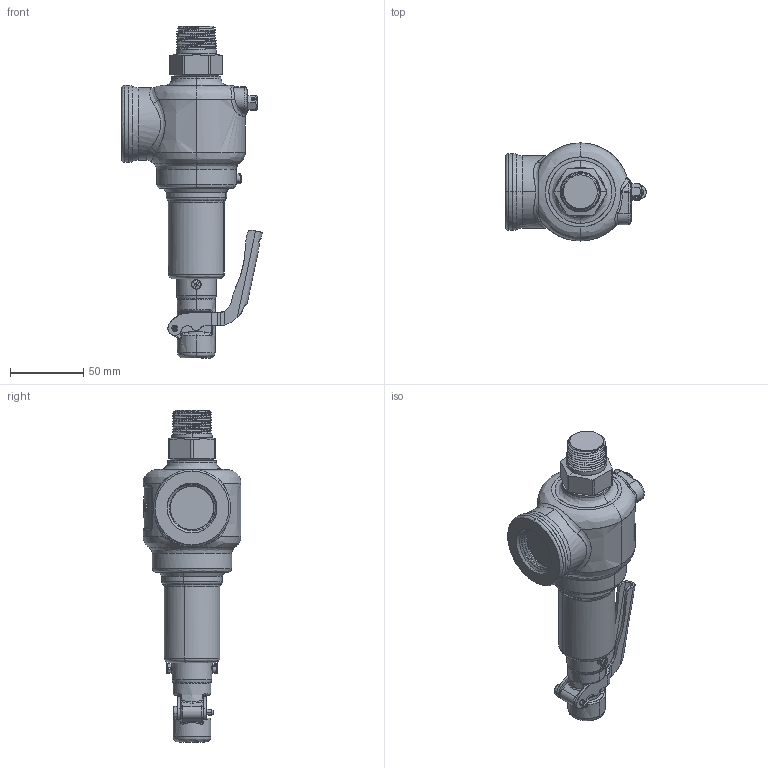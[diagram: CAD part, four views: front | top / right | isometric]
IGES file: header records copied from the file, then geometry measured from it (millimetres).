
Start section: SolidWorks IGES file using NURBS representation for surfaces
Global section: file name: C:\Design\Design\Aquatrol\Customer 3D Files\Series 740 Customer Files\E Orifice\Customer\Iges Files\Series 740 E 750 x 1000 Open Lever.IGS; native system: SolidWorks 2015; preprocessor: SolidWorks 2015; author: Karl; date: 150515.102141; units: inch
Bounding box: 95.63 x 66.67 x 225.9 mm (x, y, z)
Surface area: 46856.9 mm2 (no closed solid volume)
Topology: 0 solids, 0 shells, 519 faces, 8602 edges, 8602 vertices
Faces by surface type: bspline 519
